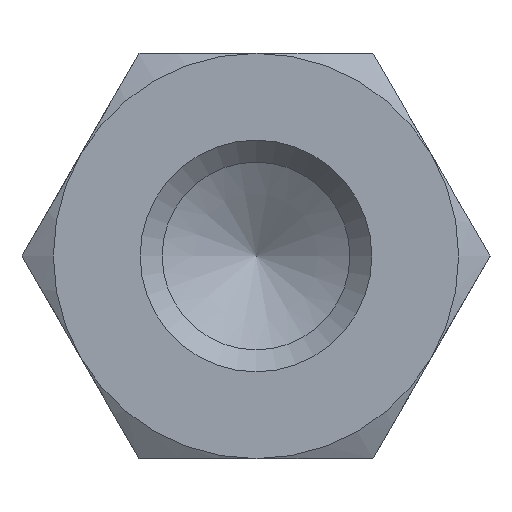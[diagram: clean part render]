
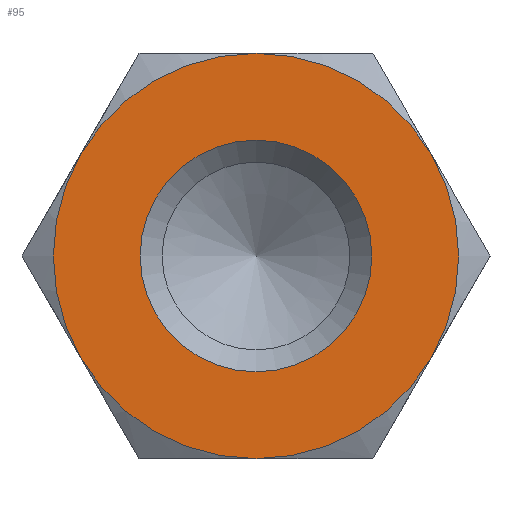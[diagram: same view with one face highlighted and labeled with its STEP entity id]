
A CAD part, left-side view. The second image highlights one B-rep face of the part: STEP entity #95.
In plain terms, the highlighted planar face has unit normal (-1, 0, 0).
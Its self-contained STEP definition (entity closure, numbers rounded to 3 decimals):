
#95 = ADVANCED_FACE( '', ( #147, #148 ), #149, .F. );
#147 = FACE_OUTER_BOUND( '', #206, .T. );
#148 = FACE_BOUND( '', #207, .T. );
#149 = PLANE( '', #208 );
#206 = EDGE_LOOP( '', ( #356, #357, #358, #359, #360, #361 ) );
#207 = EDGE_LOOP( '', ( #362 ) );
#208 = AXIS2_PLACEMENT_3D( '', #363, #364, #365 );
#356 = ORIENTED_EDGE( '', *, *, #440, .F. );
#357 = ORIENTED_EDGE( '', *, *, #425, .F. );
#358 = ORIENTED_EDGE( '', *, *, #441, .F. );
#359 = ORIENTED_EDGE( '', *, *, #437, .F. );
#360 = ORIENTED_EDGE( '', *, *, #442, .F. );
#361 = ORIENTED_EDGE( '', *, *, #443, .F. );
#362 = ORIENTED_EDGE( '', *, *, #439, .T. );
#363 = CARTESIAN_POINT( '', ( -25., 0., 0. ) );
#364 = DIRECTION( '', ( 1., 0., 0. ) );
#365 = DIRECTION( '', ( 0., 0., -1. ) );
#425 = EDGE_CURVE( '', #495, #493, #497, .T. );
#437 = EDGE_CURVE( '', #447, #506, #513, .T. );
#439 = EDGE_CURVE( '', #516, #516, #517, .T. );
#440 = EDGE_CURVE( '', #493, #486, #518, .T. );
#441 = EDGE_CURVE( '', #506, #495, #519, .T. );
#442 = EDGE_CURVE( '', #481, #447, #520, .T. );
#443 = EDGE_CURVE( '', #486, #481, #521, .T. );
#447 = VERTEX_POINT( '', #525 );
#481 = VERTEX_POINT( '', #595 );
#486 = VERTEX_POINT( '', #611 );
#493 = VERTEX_POINT( '', #632 );
#495 = VERTEX_POINT( '', #637 );
#497 = CIRCLE( '', #644, 3.5 );
#506 = VERTEX_POINT( '', #670 );
#513 = CIRCLE( '', #701, 3.5 );
#516 = VERTEX_POINT( '', #704 );
#517 = CIRCLE( '', #705, 2. );
#518 = CIRCLE( '', #706, 3.5 );
#519 = CIRCLE( '', #707, 3.5 );
#520 = CIRCLE( '', #708, 3.5 );
#521 = CIRCLE( '', #709, 3.5 );
#525 = CARTESIAN_POINT( '', ( -25., -3.031, 1.75 ) );
#595 = CARTESIAN_POINT( '', ( -25., 0., 3.5 ) );
#611 = CARTESIAN_POINT( '', ( -25., 3.031, 1.75 ) );
#632 = CARTESIAN_POINT( '', ( -25., 3.031, -1.75 ) );
#637 = CARTESIAN_POINT( '', ( -25., 0., -3.5 ) );
#644 = AXIS2_PLACEMENT_3D( '', #744, #745, #746 );
#670 = CARTESIAN_POINT( '', ( -25., -3.031, -1.75 ) );
#701 = AXIS2_PLACEMENT_3D( '', #749, #750, #751 );
#704 = CARTESIAN_POINT( '', ( -25., 2., 0. ) );
#705 = AXIS2_PLACEMENT_3D( '', #755, #756, #757 );
#706 = AXIS2_PLACEMENT_3D( '', #758, #759, #760 );
#707 = AXIS2_PLACEMENT_3D( '', #761, #762, #763 );
#708 = AXIS2_PLACEMENT_3D( '', #764, #765, #766 );
#709 = AXIS2_PLACEMENT_3D( '', #767, #768, #769 );
#744 = CARTESIAN_POINT( '', ( -25., 0., 0. ) );
#745 = DIRECTION( '', ( 1., 0., 0. ) );
#746 = DIRECTION( '', ( 0., 0., -1. ) );
#749 = CARTESIAN_POINT( '', ( -25., 0., 0. ) );
#750 = DIRECTION( '', ( 1., 0., 0. ) );
#751 = DIRECTION( '', ( 0., 0., -1. ) );
#755 = CARTESIAN_POINT( '', ( -25., 0., 0. ) );
#756 = DIRECTION( '', ( 1., 0., 0. ) );
#757 = DIRECTION( '', ( 0., 1., 0. ) );
#758 = CARTESIAN_POINT( '', ( -25., 0., 0. ) );
#759 = DIRECTION( '', ( 1., 0., 0. ) );
#760 = DIRECTION( '', ( 0., 0., -1. ) );
#761 = CARTESIAN_POINT( '', ( -25., 0., 0. ) );
#762 = DIRECTION( '', ( 1., 0., 0. ) );
#763 = DIRECTION( '', ( 0., 0., -1. ) );
#764 = CARTESIAN_POINT( '', ( -25., 0., 0. ) );
#765 = DIRECTION( '', ( 1., 0., 0. ) );
#766 = DIRECTION( '', ( 0., 0., -1. ) );
#767 = CARTESIAN_POINT( '', ( -25., 0., 0. ) );
#768 = DIRECTION( '', ( 1., 0., 0. ) );
#769 = DIRECTION( '', ( 0., 0., -1. ) );
